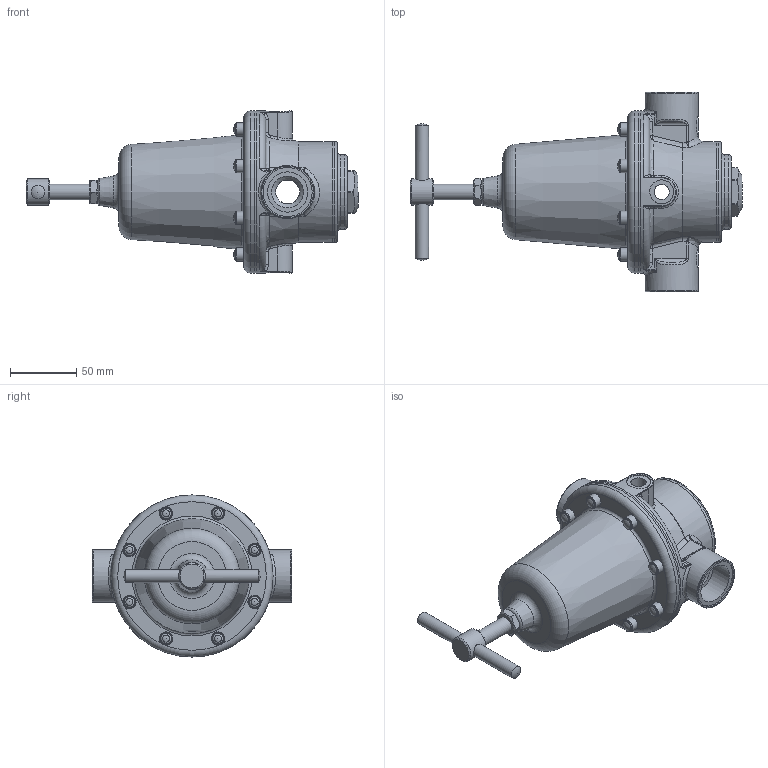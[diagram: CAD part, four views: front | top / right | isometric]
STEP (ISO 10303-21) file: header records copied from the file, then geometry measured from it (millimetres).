
FILE_DESCRIPTION(/* description */ (''),/* implementation_level */ '2;1');
FILE_NAME(/* name */ 'U:/AirCom-Produktdokumentation/Druckregler/REA/Zeichnungen/CAD-Aircom/3D/B-REA-A8x_01.step',/* time_stamp */ '2022-06-03T09:33:31+02:00',/* author */ (''),/* organization */ (''),/* preprocessor_version */ 'ST-DEVELOPER v19',/* originating_system */ 'Autodesk Translation Framework v11.7.0.108',/* authorisation */ '');
FILE_SCHEMA (('AUTOMOTIVE_DESIGN { 1 0 10303 214 3 1 1 }'));
Length unit declared in the file: millimetre
Products named in the file (9): DM3405251-01; GGZ0025.26.0114; GGZ0015.23.0034; DER0760.08.0025; MED1225.01.0015; DIN6304-M12-080; ISO 4035 - M12DIN EN; ADK-06-GRAU; DIN 912 - M6 x 16
Assembly tree (22 placements, depth 2):
  DM3405251-01
    GGZ0025.26.0114
    GGZ0015.23.0034
    DER0760.08.0025
    MED1225.01.0015
    DIN6304-M12-080
    ISO 4035 - M12DIN EN
    ADK-06-GRAU  x8
    DIN 912 - M6 x 16  x8
Bounding box: 250 x 150 x 122 mm (x, y, z)
Volume: 516339.5 mm3; surface area: 175365.7 mm2
Topology: 22 solids, 22 shells, 499 faces, 1149 edges, 711 vertices
Faces by surface type: plane 181, cylinder 158, bspline 76, cone 45, torus 28, sphere 11
Full cylindrical faces by diameter (mm): 3.5 x8, 4.917 x8, 5 x9, 5.2 x8, 6 x16, 6.6 x16, 8 x9, 10 x10, 10.106 x2, 11.5 x2, 12 x1, 15 x1, 16 x2, 18 x3, 20 x2, 24 x2, 30.4 x2, 37 x2, 40 x2, 56 x1, 65 x1, 66 x1, 66.5 x1, 68 x1, 76 x2, 80 x1, 122 x3
Entity records: 14674 total; most frequent: CARTESIAN_POINT 7031, ORIENTED_EDGE 1528, DIRECTION 1456, EDGE_CURVE 764, AXIS2_PLACEMENT_3D 611, VERTEX_POINT 480, EDGE_LOOP 422, FACE_OUTER_BOUND 324
